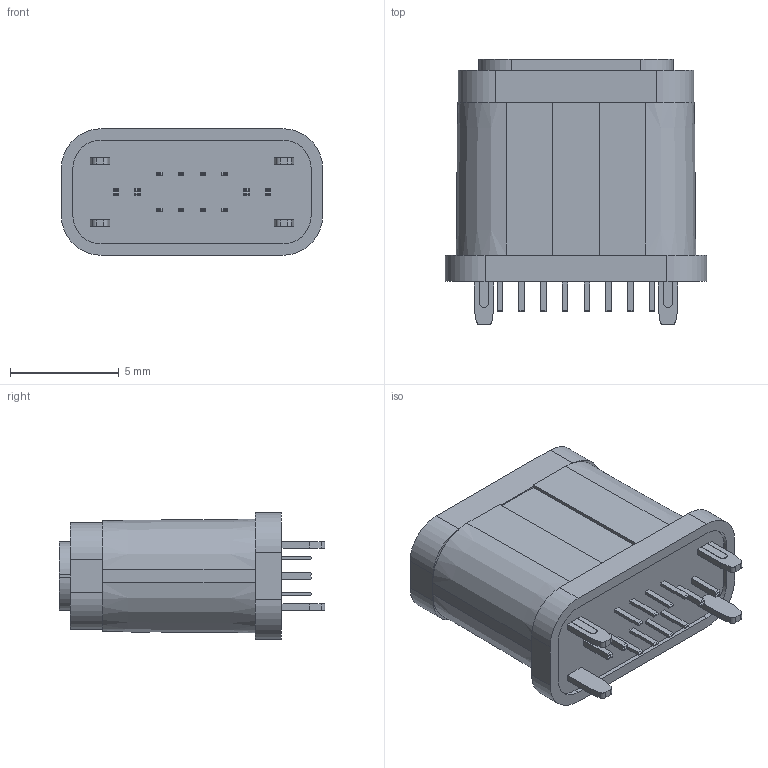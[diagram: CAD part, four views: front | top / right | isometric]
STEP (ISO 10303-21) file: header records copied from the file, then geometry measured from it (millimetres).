
FILE_DESCRIPTION (( 'STEP AP203' ), '1' );
FILE_NAME ('U5027-16PN10.2LF.STEP', '2026-09-21T05:47:29', ( '' ), ( '' ), 'SwSTEP 2.0', 'SolidWorks 2024', '' );
FILE_SCHEMA (( 'CONFIG_CONTROL_DESIGN' ));
Length unit declared in the file: millimetre
Products named in the file (3): 1030002-3_1; U5027-16PN10.2LF; 1030002_1
Assembly tree (2 placements, depth 2):
  U5027-16PN10.2LF
    1030002-3_1
    1030002_1
Bounding box: 12 x 12.2 x 5.81 mm (x, y, z)
Volume: 423.2 mm3; surface area: 1289.3 mm2
Topology: 2 solids, 2 shells, 639 faces, 1820 edges, 1196 vertices
Faces by surface type: plane 472, cylinder 118, bspline 25, cone 24
Entity records: 22400 total; most frequent: CARTESIAN_POINT 5337, ORIENTED_EDGE 3640, DIRECTION 3262, EDGE_CURVE 1820, LINE 1448, VECTOR 1448, VERTEX_POINT 1196, AXIS2_PLACEMENT_3D 907
